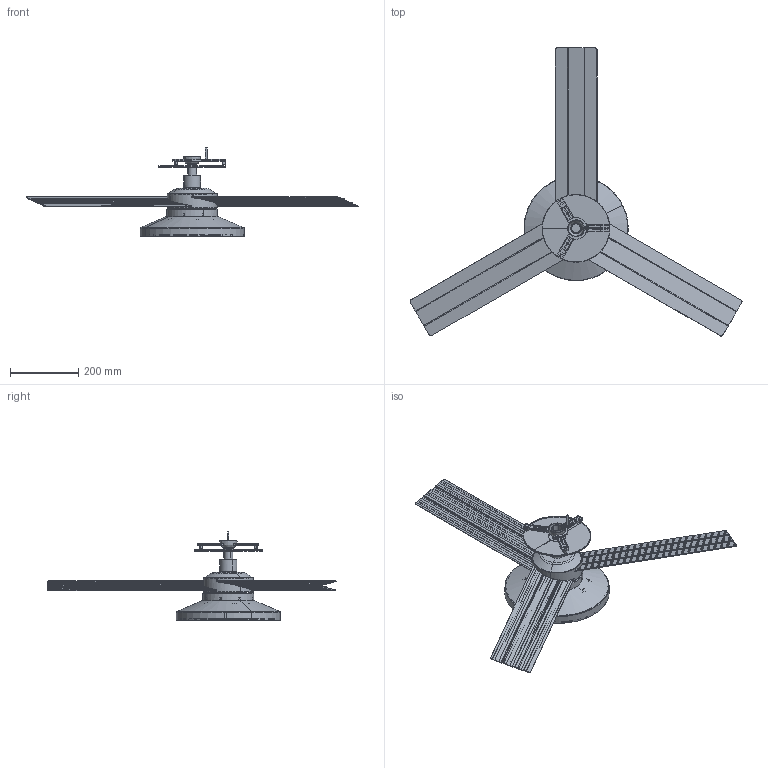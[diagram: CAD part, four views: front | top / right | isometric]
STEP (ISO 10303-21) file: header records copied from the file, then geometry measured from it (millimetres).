
FILE_DESCRIPTION(/* description */ (''),/* implementation_level */ '2;1');
FILE_NAME(/* name */ 'cruiser_tak_S_recess_3d',/* time_stamp */ '2026-06-18T12:35:12+02:00',/* author */ (''),/* organization */ (''),/* preprocessor_version */ 'ST-DEVELOPER v19.2',/* originating_system */ 'Rhino 8.30',/* authorisation */ '');
FILE_SCHEMA (('CONFIG_CONTROL_DESIGN'));
Length unit declared in the file: millimetre
Products named in the file (1): Document
Bounding box: 974.73 x 846.04 x 260.43 mm (x, y, z)
Volume: 319731.4 mm3; surface area: 1109414 mm2
Topology: 6 solids, 13 shells, 1092 faces, 2964 edges, 1890 vertices
Faces by surface type: plane 632, cylinder 356, bspline 104
Entity records: 39525 total; most frequent: CARTESIAN_POINT 17219, ORIENTED_EDGE 5871, EDGE_CURVE 2964, DIRECTION 2308, VERTEX_POINT 1889, B_SPLINE_CURVE_WITH_KNOTS 1824, AXIS2_PLACEMENT_3D 1647, EDGE_LOOP 1148
